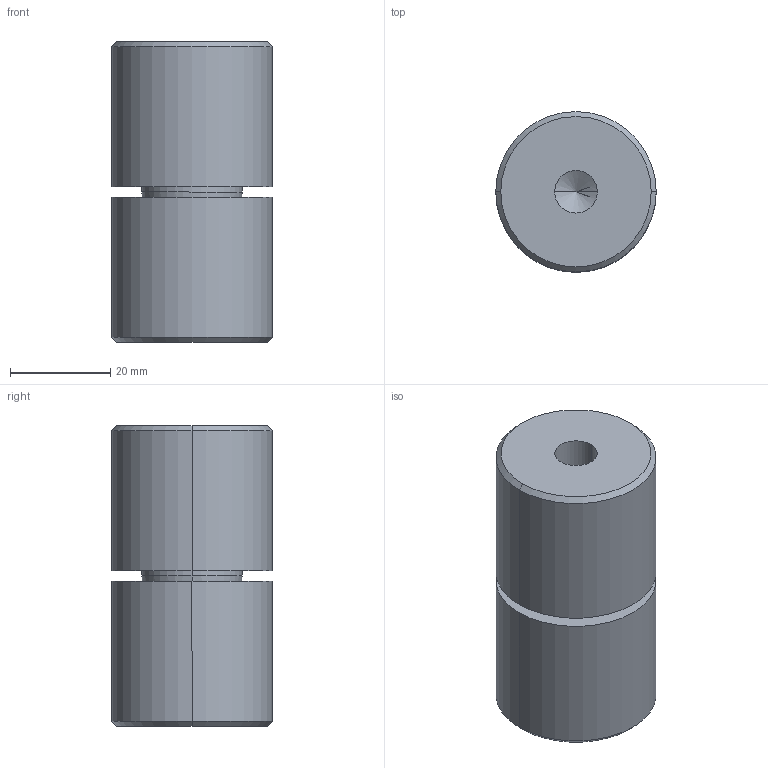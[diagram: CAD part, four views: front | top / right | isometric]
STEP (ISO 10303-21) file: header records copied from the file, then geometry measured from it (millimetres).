
FILE_DESCRIPTION (( 'STEP AP214' ), '1' );
FILE_NAME ('TPNV32-5.STEP', '2024-05-30T14:08:10', ( '' ), ( '' ), 'SwSTEP 2.0', 'SolidWorks 2017', '' );
FILE_SCHEMA (( 'AUTOMOTIVE_DESIGN' ));
Length unit declared in the file: millimetre
Products named in the file (3): TPNVP32-5; TPNV32-5; TPNVB32-5
Assembly tree (2 placements, depth 2):
  TPNV32-5
    TPNVP32-5
    TPNVB32-5
Bounding box: 32 x 32 x 60 mm (x, y, z)
Volume: 44268.9 mm3; surface area: 11421.2 mm2
Topology: 2 solids, 2 shells, 32 faces, 64 edges, 37 vertices
Faces by surface type: cylinder 12, cone 12, plane 6, torus 2
Entity records: 978 total; most frequent: DIRECTION 174, CARTESIAN_POINT 136, ORIENTED_EDGE 124, AXIS2_PLACEMENT_3D 75, EDGE_CURVE 62, CIRCLE 38, EDGE_LOOP 37, VERTEX_POINT 37
